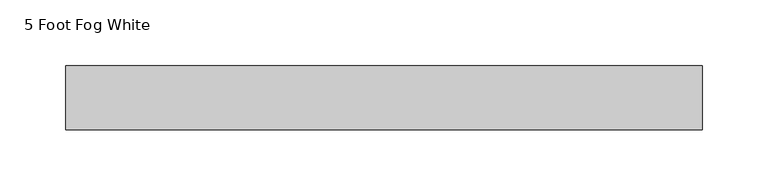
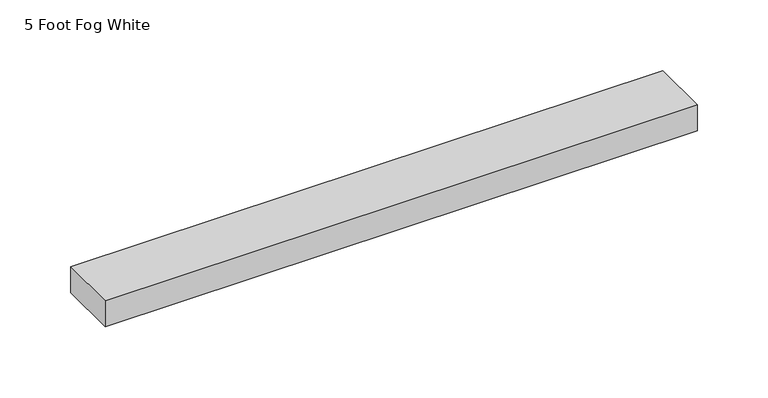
"""IFC4 building model written with IfcOpenShell, lengths in millimetres: proxy geometry, Raceway-2400_Series-Wiremold-Steel : 5 Foot Fog White."""

from ifc_helpers import new_model, si_unit, origin, origin_with_axes, place, context, project, spatial, polyline, outline, extrude, source, transform, mapped, element, save


def proxy_5_foot_fog_white_9b353d6c(model_context):
    return source(origin(), model_context, "Body", "SweptSolid", [
        extrude(outline(polyline([(482.6, 24.2062), (482.6, -24.2062), (0.0, -24.2062), (0.0, 24.2062), (482.6, 24.2062)])), origin_with_axes(), (0.0, 0.0, 1.0), 22.225),
    ])


if __name__ == "__main__":
    model = new_model("IFC4")
    model_context = context("Model", 3, world=origin())
    ifc_project = project(units=[si_unit("LENGTHUNIT", "METRE", prefix="MILLI")], contexts=[model_context])
    site = spatial("IfcSite", under=ifc_project)
    building = spatial("IfcBuilding", under=site)
    placement = place(None, origin())
    proxy_5_foot_fog_white_shape = proxy_5_foot_fog_white_9b353d6c(model_context)
    element("IfcBuildingElementProxy", 1, Name="Raceway-2400_Series-Wiremold-Steel : 5 Foot Fog White", ObjectType="Raceway-2400_Series-Wiremold-Steel : 5 Foot Fog White", at=placement, inside=building, context=model_context, shape_type="MappedRepresentation", body=[
        mapped(proxy_5_foot_fog_white_shape, transform((0.0, 0.0, 0.0), x_axis=(1.0, 0.0, 0.0), y_axis=(0.0, 1.0, 0.0), z_axis=(0.0, 0.0, 1.0))),
    ])
    save(model, "model.ifc")
